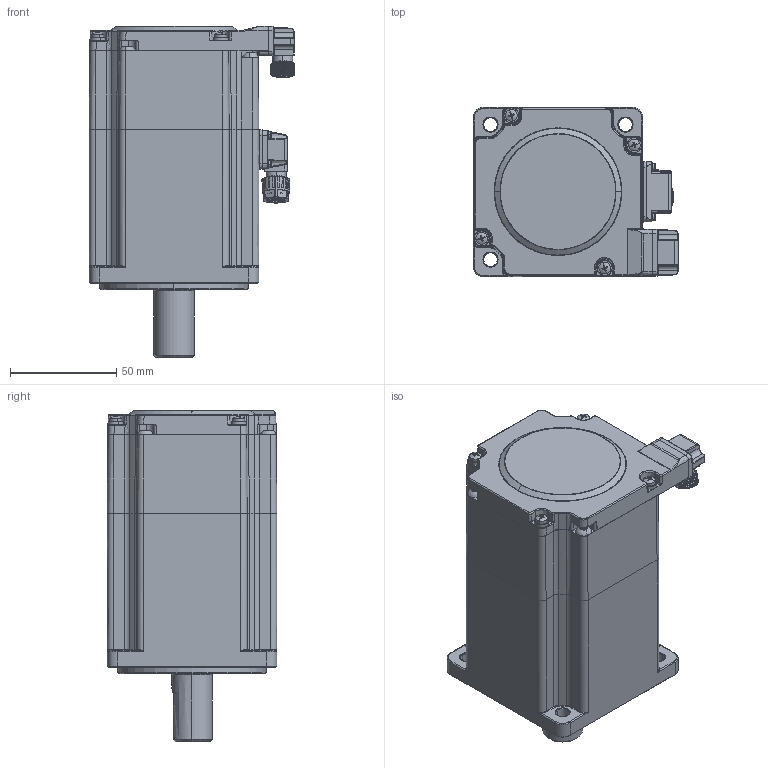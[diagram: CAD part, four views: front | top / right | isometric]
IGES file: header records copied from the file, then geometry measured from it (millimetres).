
Start section: SolidWorks IGES file using analytic representation for surfaces
Global section: file name: C:\Users\Xinje\Desktop\MS6H-80CM30BZ4-20P7.IGS; native system: SolidWorks 2022; preprocessor: SolidWorks 2022; author: Xinje; date: 230608.093831; units: millimetre
Bounding box: 96.98 x 80 x 156.1 mm (x, y, z)
Surface area: 60513.4 mm2 (no closed solid volume)
Topology: 0 solids, 0 shells, 1289 faces, 14607 edges, 14549 vertices
Faces by surface type: bspline 703, revolution 586
